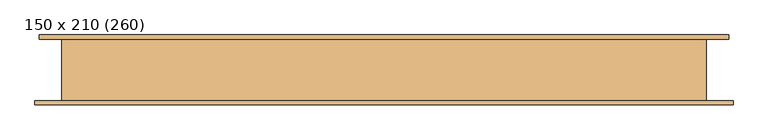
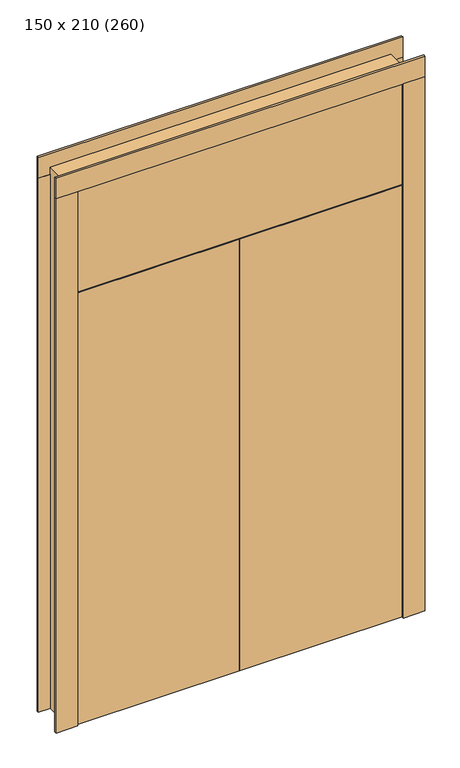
"""IFC4 building model written with IfcOpenShell, lengths in millimetres: door geometry, PORTA DE ABRIR - 2 FOLHAS + BANDEIRA FIXA - 1 FOLHA : 150 x 210 (260)."""

import ifcopenshell
import ifcopenshell.guid

model = None  # the IFC model being written
_history = None  # IfcOwnerHistory: only IFC2X3 demands one
_inside = {}  # id of a spatial element -> (the spatial element, [elements in it])
_under = {}  # id of a project, library or spatial element -> (it, [spatial elements below it])
_declared = {}  # id of a project -> (the project, [libraries it declares])
_typed = {}  # id of a type object -> (the type object, [elements of that type])
_made_of = {}  # id of a material, layer set ... -> (it, [elements and type objects made of it])


def new_model(schema):
    """Start an empty IFC model of exactly this schema.

    Asked for "IFC4X3", IfcOpenShell would pick the latest addendum, in which some entities
    have other attributes; the version numbers below select the first issue.
    IFC2X3 requires an IfcOwnerHistory on every rooted entity: one is made here for all.
    """
    global model, _history
    if schema == "IFC4X3":
        model = ifcopenshell.file(schema_version=(4, 3, 0, 0))
    else:
        model = ifcopenshell.file(schema=schema)
    _inside.clear()
    _under.clear()
    _declared.clear()
    _typed.clear()
    _made_of.clear()
    _history = None
    if model.schema == "IFC2X3":
        org = make("IfcOrganization", Name="unknown")
        user = make(
            "IfcPersonAndOrganization",
            ThePerson=make("IfcPerson", FamilyName="unknown"),
            TheOrganization=org,
        )
        app = make(
            "IfcApplication",
            ApplicationDeveloper=org,
            Version="unknown",
            ApplicationFullName="unknown",
            ApplicationIdentifier="unknown",
        )
        _history = make(
            "IfcOwnerHistory",
            OwningUser=user,
            OwningApplication=app,
            ChangeAction="ADDED",
            CreationDate=0,
        )
    return model


def make(cls, **values):
    """One entity of the class cls with the attributes given. An attribute that is None is left unset."""
    return model.create_entity(
        cls, **{name: value for name, value in values.items() if value is not None}
    )


def rooted(cls, **values):
    """An entity with a GlobalId (a new one), such as an element, a storey or a relation."""
    return make(cls, GlobalId=ifcopenshell.guid.new(), OwnerHistory=_history, **values)


def si_unit(unit_type, name, prefix=None):
    """IfcSIUnit, for example si_unit("LENGTHUNIT", "METRE", prefix="MILLI")."""
    return make("IfcSIUnit", UnitType=unit_type, Prefix=prefix, Name=name)


def assignment(units):
    """IfcUnitAssignment: the units of a project."""
    return None if units is None else make("IfcUnitAssignment", Units=units)


def point(xyz):
    """IfcCartesianPoint."""
    return None if xyz is None else make("IfcCartesianPoint", Coordinates=xyz)


def direction(xyz):
    """IfcDirection."""
    return None if xyz is None else make("IfcDirection", DirectionRatios=xyz)


def frame(location, z_axis=None, x_axis=None):
    """IfcAxis2Placement3D, a coordinate frame: its origin and axes. An axis left out is left unset."""
    return make(
        "IfcAxis2Placement3D",
        Location=point(location),
        Axis=direction(z_axis),
        RefDirection=direction(x_axis),
    )


def origin():
    """The frame at (0, 0, 0) with its axes left unset."""
    return frame((0.0, 0.0, 0.0))


def origin_with_axes():
    """The frame at (0, 0, 0) with the z axis (0, 0, 1) and the x axis (1, 0, 0) written out."""
    return frame((0.0, 0.0, 0.0), z_axis=(0.0, 0.0, 1.0), x_axis=(1.0, 0.0, 0.0))


def place(relative_to, where):
    """IfcLocalPlacement: puts the frame where relative to a parent placement (None: the world)."""
    return make(
        "IfcLocalPlacement", PlacementRelTo=relative_to, RelativePlacement=where
    )


def context(
    kind, dimensions, precision=None, world=None, true_north=None, identifier=None
):
    """IfcGeometricRepresentationContext, for example the 3D "Model" context."""
    return make(
        "IfcGeometricRepresentationContext",
        ContextIdentifier=identifier,
        ContextType=kind,
        CoordinateSpaceDimension=dimensions,
        Precision=precision,
        WorldCoordinateSystem=world,
        TrueNorth=true_north,
    )


def project(units=None, contexts=None):
    """IfcProject with its units and contexts."""
    return rooted(
        "IfcProject",
        Name="project",
        RepresentationContexts=contexts,
        UnitsInContext=assignment(units),
    )


def spatial(cls, under=None, at=None, **own):
    """A site, building, storey or space (cls), placed at a placement, below another one or the project."""
    s = rooted(cls, ObjectPlacement=at, **own)
    if under is not None:
        _under.setdefault(under.id(), (under, []))[1].append(s)
    return s


def polyline(points):
    """IfcPolyline through the points."""
    return make("IfcPolyline", Points=[point(p) for p in points])


def outline(outer, holes=None, kind="AREA"):
    """IfcArbitraryClosedProfileDef: a profile drawn as a closed curve; with holes, ...WithVoids."""
    if holes is None:
        return make("IfcArbitraryClosedProfileDef", ProfileType=kind, OuterCurve=outer)
    return make(
        "IfcArbitraryProfileDefWithVoids",
        ProfileType=kind,
        OuterCurve=outer,
        InnerCurves=holes,
    )


def extrude(swept, where, along, depth):
    """IfcExtrudedAreaSolid: the profile swept, set in the frame where, extruded along a direction by depth."""
    return make(
        "IfcExtrudedAreaSolid",
        SweptArea=swept,
        Position=where,
        ExtrudedDirection=direction(along),
        Depth=depth,
    )


def faces_of(points, faces, orient=None, outer=None):
    """IfcFace entities. A face is a list of loops; a loop is a list of indices into points, from 0.

    orient and outer hold one flag for each loop. By default every Orientation is true, the
    first loop of a face is its IfcFaceOuterBound and the others are IfcFaceBound.
    """
    made = []
    for i, loops in enumerate(faces):
        bounds = []
        for j, loop in enumerate(loops):
            is_outer = j == 0 if outer is None else outer[i][j]
            bounds.append(
                make(
                    "IfcFaceOuterBound" if is_outer else "IfcFaceBound",
                    Bound=make("IfcPolyLoop", Polygon=[points[k] for k in loop]),
                    Orientation=True if orient is None else orient[i][j],
                )
            )
        made.append(make("IfcFace", Bounds=bounds))
    return made


def faceted_brep(points, faces, orient=None, outer=None, voids=None):
    """IfcFacetedBrep: a solid bounded by flat faces; with voids (closed shells), ...WithVoids."""
    shared = [point(p) for p in points]
    hull = make("IfcClosedShell", CfsFaces=faces_of(shared, faces, orient, outer))
    if voids is None:
        return make("IfcFacetedBrep", Outer=hull)
    return make(
        "IfcFacetedBrepWithVoids",
        Outer=hull,
        Voids=[
            make(cls, CfsFaces=faces_of(shared, fs, o, b)) for cls, fs, o, b in voids
        ],
    )


def shape(context_of_items, identifier, shape_type, items):
    """IfcShapeRepresentation: the items that make up one representation, for example the "Body"."""
    return make(
        "IfcShapeRepresentation",
        ContextOfItems=context_of_items,
        RepresentationIdentifier=identifier,
        RepresentationType=shape_type,
        Items=items,
    )


def source(mapping_origin, context_of_items, identifier, shape_type, items):
    """IfcRepresentationMap: a shape defined once, which mapped items show again and again."""
    return make(
        "IfcRepresentationMap",
        MappingOrigin=mapping_origin,
        MappedRepresentation=shape(context_of_items, identifier, shape_type, items),
    )


def transform(
    local_origin,
    x_axis=None,
    y_axis=None,
    z_axis=None,
    scale=None,
    scale2=None,
    scale3=None,
    uniform=True,
):
    """IfcCartesianTransformationOperator3D, or its non-uniform kind. x_axis, y_axis, z_axis: its Axis1, 2, 3."""
    if uniform:
        return make(
            "IfcCartesianTransformationOperator3D",
            Axis1=direction(x_axis),
            Axis2=direction(y_axis),
            LocalOrigin=point(local_origin),
            Scale=scale,
            Axis3=direction(z_axis),
        )
    return make(
        "IfcCartesianTransformationOperator3DnonUniform",
        Axis1=direction(x_axis),
        Axis2=direction(y_axis),
        LocalOrigin=point(local_origin),
        Scale=scale,
        Axis3=direction(z_axis),
        Scale2=scale2,
        Scale3=scale3,
    )


def mapped(mapping_source, mapping_target):
    """IfcMappedItem: shows the shape of a source again, moved by a transform."""
    return make(
        "IfcMappedItem", MappingSource=mapping_source, MappingTarget=mapping_target
    )


def made_of(thing, what):
    """Note that an element or type object is made of a material, layer set ...; save() writes the relation."""
    if what is not None:
        _made_of.setdefault(what.id(), (what, []))[1].append(thing)
    return thing


def element(
    cls,
    number,
    at=None,
    inside=None,
    cuts=None,
    type_object=None,
    material=None,
    context=None,
    identifier="Body",
    shape_type=None,
    held_by="IfcProductDefinitionShape",
    body=None,
    shapes=None,
    **own,
):
    """One element of the class cls, such as IfcWall. Its Tag is "e" and its number.

    at: its placement. inside: the storey or other place that contains it. cuts: it is an
    opening in that element (IfcRelVoidsElement). A single representation is given by context,
    identifier, shape_type and body (its items); several are given by shapes. held_by: the class
    of the entity that holds the representations. save() writes the other relations.
    """
    e = rooted(cls, Tag="e%d" % number, ObjectPlacement=at, **own)
    if body is not None:
        shapes = [shape(context, identifier, shape_type, body)]
    if shapes is not None:
        e.Representation = make(held_by, Representations=shapes)
    if inside is not None:
        _inside.setdefault(inside.id(), (inside, []))[1].append(e)
    if cuts is not None:
        rooted(
            "IfcRelVoidsElement", RelatingBuildingElement=cuts, RelatedOpeningElement=e
        )
    if type_object is not None:
        _typed.setdefault(type_object.id(), (type_object, []))[1].append(e)
    return made_of(e, material)


def aggregate(whole, parts):
    """IfcRelAggregates: a whole, such as a stair, and the parts it consists of."""
    return rooted("IfcRelAggregates", RelatingObject=whole, RelatedObjects=parts)


def save(model, path):
    """Write the relations noted so far, then the file.

    IfcRelAggregates (storeys below a building ...), IfcRelContainedInSpatialStructure (elements
    in a storey), IfcRelDefinesByType, IfcRelAssociatesMaterial and IfcRelDeclares: one each for
    every whole, place, type object, material and project.
    """
    for whole, parts in _under.values():
        aggregate(whole, parts)
    for where, things in _inside.values():
        rooted(
            "IfcRelContainedInSpatialStructure",
            RelatedElements=things,
            RelatingStructure=where,
        )
    for kind, things in _typed.values():
        rooted("IfcRelDefinesByType", RelatedObjects=things, RelatingType=kind)
    for what, things in _made_of.values():
        rooted("IfcRelAssociatesMaterial", RelatedObjects=things, RelatingMaterial=what)
    for by, libraries in _declared.values():
        rooted("IfcRelDeclares", RelatingContext=by, RelatedDefinitions=libraries)
    model.write(path)


def door_150_x_210_260_12780f67(model_context):
    return source(origin(), model_context, "Body", "SolidModel", [
        extrude(outline(polyline([(80.0, -75.0), (80.0, -35.0), (830.0, -35.0), (830.0, -75.0), (80.0, -75.0)])), origin_with_axes(), (0.0, 0.0, 1.0), 2100.0),
        extrude(outline(polyline([(80.0, -75.0), (-670.0, -75.0), (-670.0, -35.0), (80.0, -35.0), (80.0, -75.0)])), origin_with_axes(), (0.0, 0.0, 1.0), 2100.0),
        extrude(outline(polyline([(-760.0, 85.0), (-660.0, 85.0), (-660.0, 75.0), (-760.0, 75.0), (-760.0, 85.0)])), origin_with_axes(), (0.0, 0.0, 1.0), 2600.0),
        extrude(outline(polyline([(820.0, 85.0), (920.0, 85.0), (920.0, 75.0), (820.0, 75.0), (820.0, 85.0)])), origin_with_axes(), (0.0, 0.0, 1.0), 2600.0),
        extrude(outline(polyline([(930.0, -85.0), (830.0, -85.0), (830.0, -75.0), (930.0, -75.0), (930.0, -85.0)])), origin_with_axes(), (0.0, 0.0, 1.0), 2600.0),
        extrude(outline(polyline([(-670.0, -85.0), (-770.0, -85.0), (-770.0, -75.0), (-670.0, -75.0), (-670.0, -85.0)])), origin_with_axes(), (0.0, 0.0, 1.0), 2600.0),
        extrude(outline(polyline([(830.0, -75.0), (-670.0, -75.0), (-670.0, -35.0), (830.0, -35.0), (830.0, -75.0)])), frame((0.0, 0.0, 2105.0), z_axis=(0.0, 0.0, 1.0), x_axis=(1.0, 0.0, 0.0)), (0.0, 0.0, 1.0), 495.0),
        faceted_brep([(865.0, 75.0, 0.0), (865.0, -75.0, 0.0), (830.0, -75.0, 0.0), (830.0, -35.0, 0.0), (820.0, -35.0, 0.0), (820.0, 75.0, 0.0), (865.0, 75.0, 2635.0), (865.0, -75.0, 2635.0), (-705.0, -75.0, 2635.0), (-705.0, -75.0, 0.0), (-670.0, -75.0, 0.0), (-670.0, -75.0, 2600.0), (830.0, -75.0, 2600.0), (830.0, -35.0, 2600.0), (820.0, -35.0, 2600.0), (820.0, 75.0, 2600.0), (-660.0, 75.0, 2600.0), (-660.0, 75.0, 0.0), (-705.0, 75.0, 0.0), (-705.0, 75.0, 2635.0), (-660.0, -35.0, 0.0), (-670.0, -35.0, 0.0), (-670.0, -35.0, 2600.0), (-660.0, -35.0, 2600.0)], [[[0, 1, 2, 3, 4, 5]], [[1, 0, 6, 7]], [[2, 1, 7, 8, 9, 10, 11, 12]], [[3, 2, 12, 13]], [[4, 3, 13, 14]], [[5, 4, 14, 15]], [[0, 5, 15, 16, 17, 18, 19, 6]], [[9, 8, 19, 18]], [[18, 17, 20, 21, 10, 9]], [[10, 21, 22, 11]], [[20, 17, 16, 23]], [[21, 20, 23, 22]], [[19, 8, 7, 6]], [[13, 12, 11, 22, 23, 16, 15, 14]]]),
        extrude(outline(polyline([(930.0, -85.0), (-770.0, -85.0), (-770.0, -75.0), (930.0, -75.0), (930.0, -85.0)])), frame((0.0, 0.0, 2600.0), z_axis=(0.0, 0.0, 1.0), x_axis=(1.0, 0.0, 0.0)), (0.0, 0.0, 1.0), 100.0),
        extrude(outline(polyline([(920.0, 75.0), (-760.0, 75.0), (-760.0, 85.0), (920.0, 85.0), (920.0, 75.0)])), frame((0.0, 0.0, 2600.0), z_axis=(0.0, 0.0, 1.0), x_axis=(1.0, 0.0, 0.0)), (0.0, 0.0, 1.0), 100.0),
    ])


if __name__ == "__main__":
    model = new_model("IFC4")
    model_context = context("Model", 3, world=origin())
    ifc_project = project(units=[si_unit("LENGTHUNIT", "METRE", prefix="MILLI")], contexts=[model_context])
    site = spatial("IfcSite", under=ifc_project)
    building = spatial("IfcBuilding", under=site)
    placement = place(None, origin())
    door_150_x_210_260_shape = door_150_x_210_260_12780f67(model_context)
    element("IfcDoor", 1, ObjectType="PORTA DE ABRIR - 2 FOLHAS + BANDEIRA FIXA - 1 FOLHA : 150 x 210 (260)", at=placement, inside=building, context=model_context, shape_type="MappedRepresentation", body=[
        mapped(door_150_x_210_260_shape, transform((0.0, 0.0, 0.0), x_axis=(1.0, 0.0, 0.0), y_axis=(0.0, 1.0, 0.0), z_axis=(0.0, 0.0, 1.0))),
    ])
    save(model, "model.ifc")
